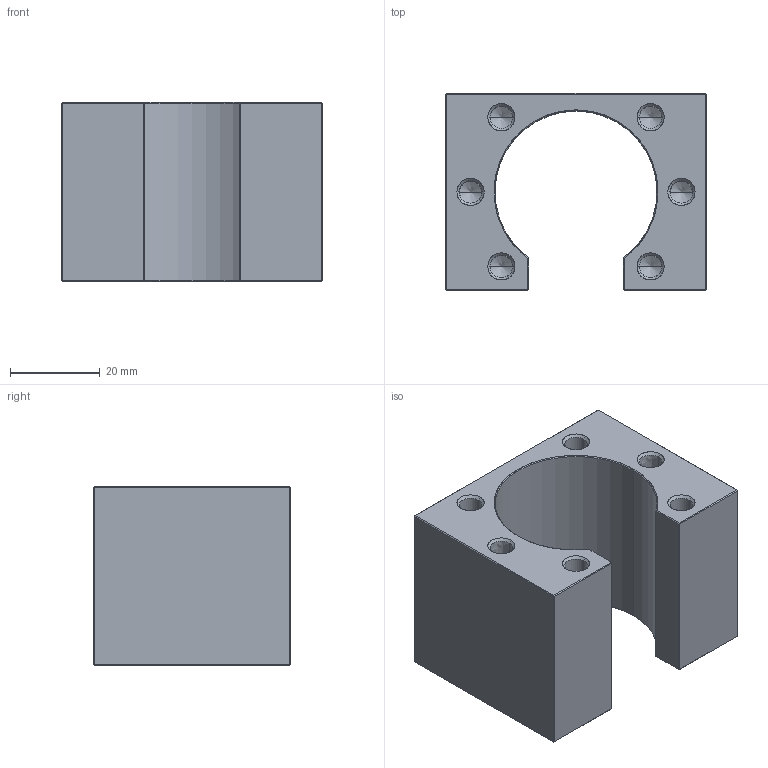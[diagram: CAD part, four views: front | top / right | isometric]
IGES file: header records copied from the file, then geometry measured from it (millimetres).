
Start section: SolidWorks IGES file using analytic representation for surfaces
Global section: file name: D:\SOLIDWORKS PROEKTI\freelance cnc cat\TRETA SERIJA SHF, SK\ball nut mount\RM2005.IGS; native system: SolidWorks 2016; preprocessor: SolidWorks 2016; author: User; date: 170808.190419; units: millimetre
Bounding box: 58 x 44 x 40 mm (x, y, z)
Surface area: 17401.3 mm2 (no closed solid volume)
Topology: 0 solids, 0 shells, 194 faces, 2335 edges, 2774 vertices
Faces by surface type: bspline 125, revolution 69
